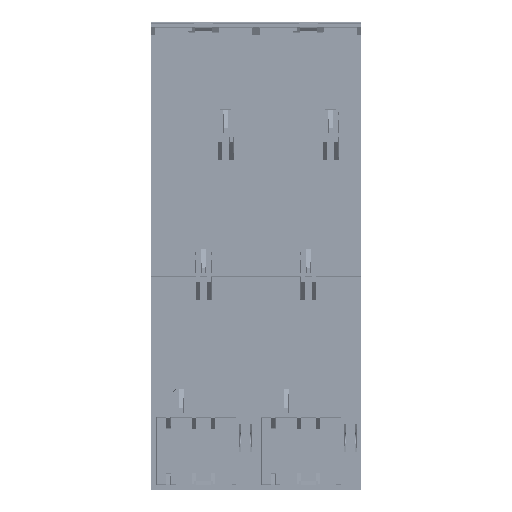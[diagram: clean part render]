
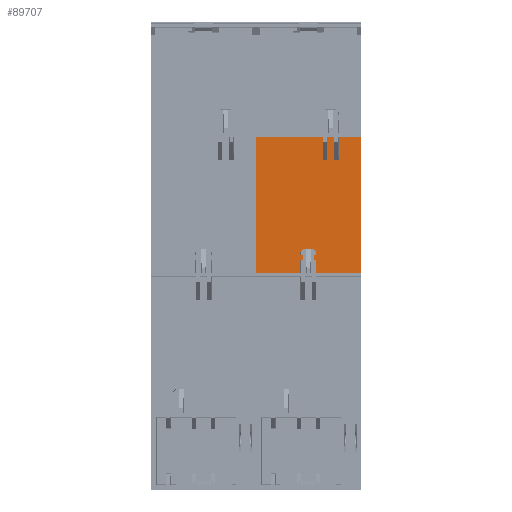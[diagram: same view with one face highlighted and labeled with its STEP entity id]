
A CAD part, front view. The second image highlights one B-rep face of the part: STEP entity #89707.
In plain terms, the highlighted planar face has unit normal (0, -1, 0).
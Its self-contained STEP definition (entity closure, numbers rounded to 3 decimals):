
#4427 = ORIENTED_EDGE ( 'NONE', *, *, #231144, .T. ) ;
#7657 = ORIENTED_EDGE ( 'NONE', *, *, #128628, .T. ) ;
#13231 = LINE ( 'NONE', #221585, #33083 ) ;
#15041 = CARTESIAN_POINT ( 'NONE',  ( 53.041, -4.5, 141.175 ) ) ;
#17212 = VERTEX_POINT ( 'NONE', #213983 ) ;
#20380 = LINE ( 'NONE', #113561, #93414 ) ;
#22470 = DIRECTION ( 'NONE',  ( 0., 0., -1. ) ) ;
#22947 = DIRECTION ( 'NONE',  ( 0., 0., -1. ) ) ;
#23957 = CARTESIAN_POINT ( 'NONE',  ( 57.941, -4.5, 151.209 ) ) ;
#25635 = DIRECTION ( 'NONE',  ( 0., 0., 1. ) ) ;
#33083 = VECTOR ( 'NONE', #114110, 1000. ) ;
#33283 = VECTOR ( 'NONE', #147041, 1000. ) ;
#33895 = CARTESIAN_POINT ( 'NONE',  ( 51.059, -4.5, 141.175 ) ) ;
#34180 = VECTOR ( 'NONE', #105416, 1000. ) ;
#36033 = VECTOR ( 'NONE', #215307, 1000. ) ;
#38901 = EDGE_CURVE ( 'NONE', #17212, #135316, #20380, .T. ) ;
#41930 = LINE ( 'NONE', #184211, #213189 ) ;
#43718 = CARTESIAN_POINT ( 'NONE',  ( 51.059, -4.5, 151.209 ) ) ;
#45473 = ORIENTED_EDGE ( 'NONE', *, *, #220703, .T. ) ;
#48900 = DIRECTION ( 'NONE',  ( 0., -1., 0. ) ) ;
#51070 = VERTEX_POINT ( 'NONE', #33895 ) ;
#62762 = CARTESIAN_POINT ( 'NONE',  ( 67.5, -4.5, 151.209 ) ) ;
#74726 = VERTEX_POINT ( 'NONE', #169766 ) ;
#74974 = VECTOR ( 'NONE', #223963, 1000. ) ;
#78552 = VERTEX_POINT ( 'NONE', #121745 ) ;
#79420 = ORIENTED_EDGE ( 'NONE', *, *, #191977, .T. ) ;
#86463 = LINE ( 'NONE', #125864, #36033 ) ;
#86569 = VERTEX_POINT ( 'NONE', #23957 ) ;
#87393 = CARTESIAN_POINT ( 'NONE',  ( 269.594, -4.5, 141.175 ) ) ;
#89707 = ADVANCED_FACE ( 'NONE', ( #172001 ), #157860, .T. ) ;
#90092 = EDGE_CURVE ( 'NONE', #139293, #186819, #201949, .T. ) ;
#93414 = VECTOR ( 'NONE', #25635, 1000. ) ;
#94050 = ORIENTED_EDGE ( 'NONE', *, *, #231135, .T. ) ;
#103874 = DIRECTION ( 'NONE',  ( -1., 0., 0. ) ) ;
#104539 = CARTESIAN_POINT ( 'NONE',  ( 22.5, -4.5, 93. ) ) ;
#105416 = DIRECTION ( 'NONE',  ( -1., 0., 0. ) ) ;
#109477 = CARTESIAN_POINT ( 'NONE',  ( 57.941, -4.5, 200.5 ) ) ;
#112953 = ORIENTED_EDGE ( 'NONE', *, *, #127200, .T. ) ;
#113561 = CARTESIAN_POINT ( 'NONE',  ( 67.5, -4.5, 200.5 ) ) ;
#113972 = VECTOR ( 'NONE', #151493, 1000. ) ;
#114110 = DIRECTION ( 'NONE',  ( 0., 0., 1. ) ) ;
#115629 = LINE ( 'NONE', #87393, #34180 ) ;
#116219 = CARTESIAN_POINT ( 'NONE',  ( 55.959, -4.5, 200.5 ) ) ;
#121745 = CARTESIAN_POINT ( 'NONE',  ( 53.041, -4.5, 151.209 ) ) ;
#125276 = EDGE_LOOP ( 'NONE', ( #131765, #7657, #127176, #175936, #79420, #213967, #94050, #217590, #4427, #112953, #202053, #45473 ) ) ;
#125864 = CARTESIAN_POINT ( 'NONE',  ( 269.594, -4.5, 141.175 ) ) ;
#125888 = AXIS2_PLACEMENT_3D ( 'NONE', #157097, #48900, #174320 ) ;
#127176 = ORIENTED_EDGE ( 'NONE', *, *, #90092, .T. ) ;
#127200 = EDGE_CURVE ( 'NONE', #222873, #171214, #195408, .T. ) ;
#128628 = EDGE_CURVE ( 'NONE', #51070, #139293, #13231, .T. ) ;
#129980 = CARTESIAN_POINT ( 'NONE',  ( 53.041, -4.5, 200.5 ) ) ;
#130434 = CARTESIAN_POINT ( 'NONE',  ( 22.5, -4.5, 200. ) ) ;
#130884 = DIRECTION ( 'NONE',  ( -1., 0., 0. ) ) ;
#131765 = ORIENTED_EDGE ( 'NONE', *, *, #139915, .T. ) ;
#135316 = VERTEX_POINT ( 'NONE', #62762 ) ;
#139293 = VERTEX_POINT ( 'NONE', #43718 ) ;
#139915 = EDGE_CURVE ( 'NONE', #199523, #51070, #86463, .T. ) ;
#145685 = LINE ( 'NONE', #129980, #185103 ) ;
#147041 = DIRECTION ( 'NONE',  ( 0., 0., -1. ) ) ;
#147224 = CARTESIAN_POINT ( 'NONE',  ( 269.594, -4.5, 151.209 ) ) ;
#151493 = DIRECTION ( 'NONE',  ( 0., 0., 1. ) ) ;
#157097 = CARTESIAN_POINT ( 'NONE',  ( 269.594, -4.5, 200.5 ) ) ;
#157860 = PLANE ( 'NONE',  #125888 ) ;
#161449 = EDGE_CURVE ( 'NONE', #171214, #78552, #41930, .T. ) ;
#164106 = CARTESIAN_POINT ( 'NONE',  ( 55.959, -4.5, 141.175 ) ) ;
#169766 = CARTESIAN_POINT ( 'NONE',  ( 57.941, -4.5, 141.175 ) ) ;
#169787 = CARTESIAN_POINT ( 'NONE',  ( 70.5, -4.5, 93. ) ) ;
#171214 = VERTEX_POINT ( 'NONE', #192060 ) ;
#172001 = FACE_OUTER_BOUND ( 'NONE', #125276, .T. ) ;
#173681 = CARTESIAN_POINT ( 'NONE',  ( 269.594, -4.5, 151.209 ) ) ;
#174320 = DIRECTION ( 'NONE',  ( 0., 0., -1. ) ) ;
#175936 = ORIENTED_EDGE ( 'NONE', *, *, #193660, .T. ) ;
#184211 = CARTESIAN_POINT ( 'NONE',  ( 269.594, -4.5, 151.209 ) ) ;
#185103 = VECTOR ( 'NONE', #22470, 1000. ) ;
#186229 = CARTESIAN_POINT ( 'NONE',  ( 22.5, -4.5, 151.209 ) ) ;
#186819 = VERTEX_POINT ( 'NONE', #186229 ) ;
#189931 = LINE ( 'NONE', #169787, #74974 ) ;
#191977 = EDGE_CURVE ( 'NONE', #204160, #17212, #189931, .T. ) ;
#192060 = CARTESIAN_POINT ( 'NONE',  ( 55.959, -4.5, 151.209 ) ) ;
#193660 = EDGE_CURVE ( 'NONE', #186819, #204160, #207030, .T. ) ;
#195408 = LINE ( 'NONE', #116219, #113972 ) ;
#198886 = LINE ( 'NONE', #109477, #33283 ) ;
#199523 = VERTEX_POINT ( 'NONE', #15041 ) ;
#201949 = LINE ( 'NONE', #147224, #218927 ) ;
#202053 = ORIENTED_EDGE ( 'NONE', *, *, #161449, .T. ) ;
#204160 = VERTEX_POINT ( 'NONE', #104539 ) ;
#207030 = LINE ( 'NONE', #130434, #221033 ) ;
#212021 = EDGE_CURVE ( 'NONE', #86569, #74726, #198886, .T. ) ;
#213189 = VECTOR ( 'NONE', #130884, 1000. ) ;
#213776 = LINE ( 'NONE', #173681, #225070 ) ;
#213967 = ORIENTED_EDGE ( 'NONE', *, *, #38901, .T. ) ;
#213983 = CARTESIAN_POINT ( 'NONE',  ( 67.5, -4.5, 93. ) ) ;
#215307 = DIRECTION ( 'NONE',  ( -1., 0., 0. ) ) ;
#217590 = ORIENTED_EDGE ( 'NONE', *, *, #212021, .T. ) ;
#217909 = DIRECTION ( 'NONE',  ( -1., 0., 0. ) ) ;
#218927 = VECTOR ( 'NONE', #217909, 1000. ) ;
#220703 = EDGE_CURVE ( 'NONE', #78552, #199523, #145685, .T. ) ;
#221033 = VECTOR ( 'NONE', #22947, 1000. ) ;
#221585 = CARTESIAN_POINT ( 'NONE',  ( 51.059, -4.5, 200.5 ) ) ;
#222873 = VERTEX_POINT ( 'NONE', #164106 ) ;
#223963 = DIRECTION ( 'NONE',  ( 1., 0., 0. ) ) ;
#225070 = VECTOR ( 'NONE', #103874, 1000. ) ;
#231135 = EDGE_CURVE ( 'NONE', #135316, #86569, #213776, .T. ) ;
#231144 = EDGE_CURVE ( 'NONE', #74726, #222873, #115629, .T. ) ;
